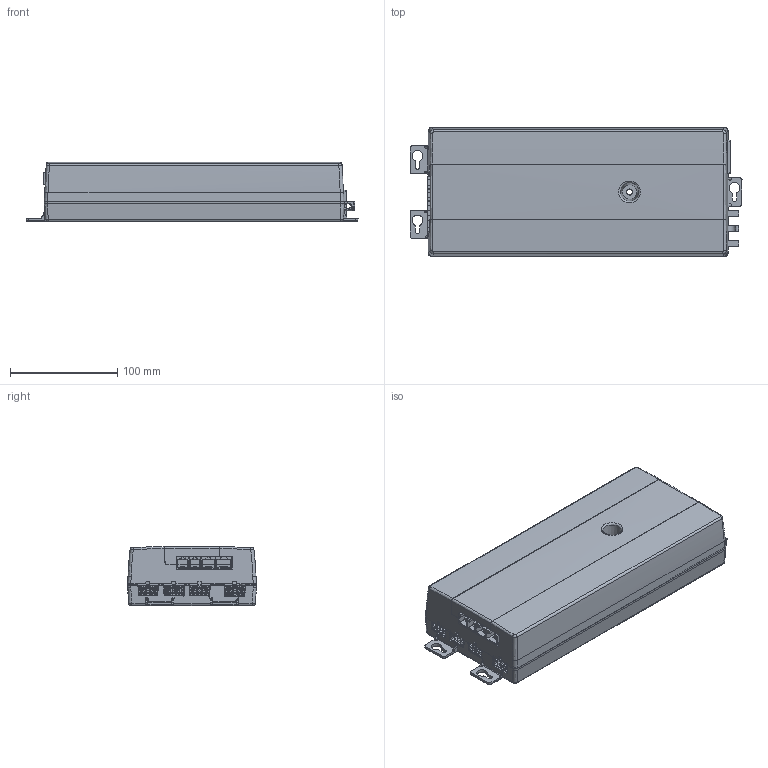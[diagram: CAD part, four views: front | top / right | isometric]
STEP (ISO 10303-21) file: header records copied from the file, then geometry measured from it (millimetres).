
FILE_DESCRIPTION(/* description */ ('Unknown','CAx-IF Rec.Pracs.---Representation and Presentation of Product Manufacturing Information (PMI)---4.0---2014-10-13','CAx-IF Rec.Pracs.---3D Tessellated Geometry---0.4---2014-09-14','2;1'),/* implementation_level */ '2;1');
FILE_NAME(/* name */ '124.005_00',/* time_stamp */ '2023-01-30T18:03:01+01:00',/* author */ ('Unknown'),/* organization */ ('Unknown'),/* preprocessor_version */ 'ST-DEVELOPER v18.102',/* originating_system */ 'Solid Edge',/* authorisation */ 'Unknown');
FILE_SCHEMA (('AP242_MANAGED_MODEL_BASED_3D_ENGINEERING_MIM_LF { 1 0 10303 442 1 1 4 }'));
Length unit declared in the file: millimetre
Products named in the file (2): 124.005; 124.00258
Assembly tree (1 placements, depth 2):
  124.005
    124.00258
Bounding box: 309.1 x 120 x 55.06 mm (x, y, z)
Volume: 314573.7 mm3; surface area: 275295.2 mm2
Topology: 8 solids, 8 shells, 7469 faces, 19689 edges, 12542 vertices
Faces by surface type: plane 4118, cylinder 1938, bspline 643, torus 574, cone 125, sphere 71
Full cylindrical faces by diameter (mm): 0.231 x1, 0.283 x1, 0.3 x1, 0.306 x4, 0.466 x2, 0.533 x1, 1.75 x7, 2.301 x2, 2.55 x6, 3 x2, 3.2 x4, 4 x4, 6.5 x2
Entity records: 291687 total; most frequent: CARTESIAN_POINT 58466, ORIENTED_EDGE 38512, DIRECTION 36280, EDGE_CURVE 19256, VERTEX_POINT 12428, AXIS2_PLACEMENT_3D 12195, LINE 11890, VECTOR 11890
